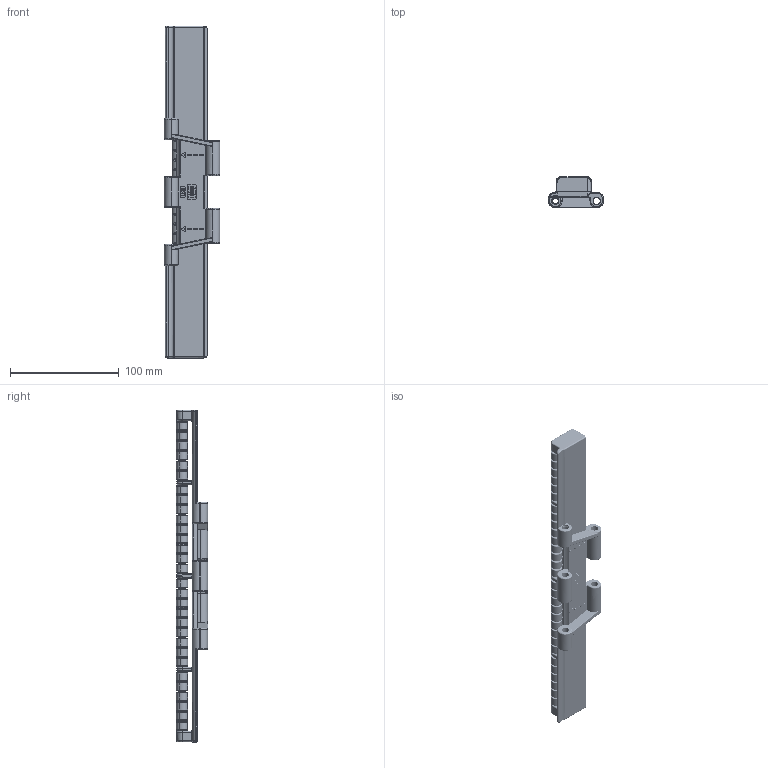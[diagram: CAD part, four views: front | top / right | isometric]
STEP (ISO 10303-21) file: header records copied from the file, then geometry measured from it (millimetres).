
FILE_DESCRIPTION (( 'STEP AP214' ), '1' );
FILE_NAME ('LF821BP120.2.STEP', '2024-11-25T10:08:36', ( '' ), ( '' ), 'SwSTEP 2.0', 'SolidWorks 2022', '' );
FILE_SCHEMA (( 'AUTOMOTIVE_DESIGN' ));
Length unit declared in the file: millimetre
Products named in the file (5): E04296SS303; LF821BP120.SR; CIERRE.8257BPLF; BPM8257.2; LF821BP120.2
Assembly tree (95 placements, depth 2):
  LF821BP120.2
    BPM8257.2  x90
    CIERRE.8257BPLF
    E04296SS303  x3
    LF821BP120.SR
Bounding box: 50.8 x 28.85 x 304.8 mm (x, y, z)
Volume: 134212.6 mm3; surface area: 95612.4 mm2
Topology: 101 solids, 101 shells, 2487 faces, 5348 edges, 3226 vertices
Faces by surface type: cylinder 1001, torus 734, plane 569, bspline 147, cone 28, sphere 8
Entity records: 26841 total; most frequent: CARTESIAN_POINT 11185, ORIENTED_EDGE 3468, DIRECTION 2784, EDGE_CURVE 1734, VERTEX_POINT 1074, AXIS2_PLACEMENT_3D 975, VECTOR 834, LINE 834
